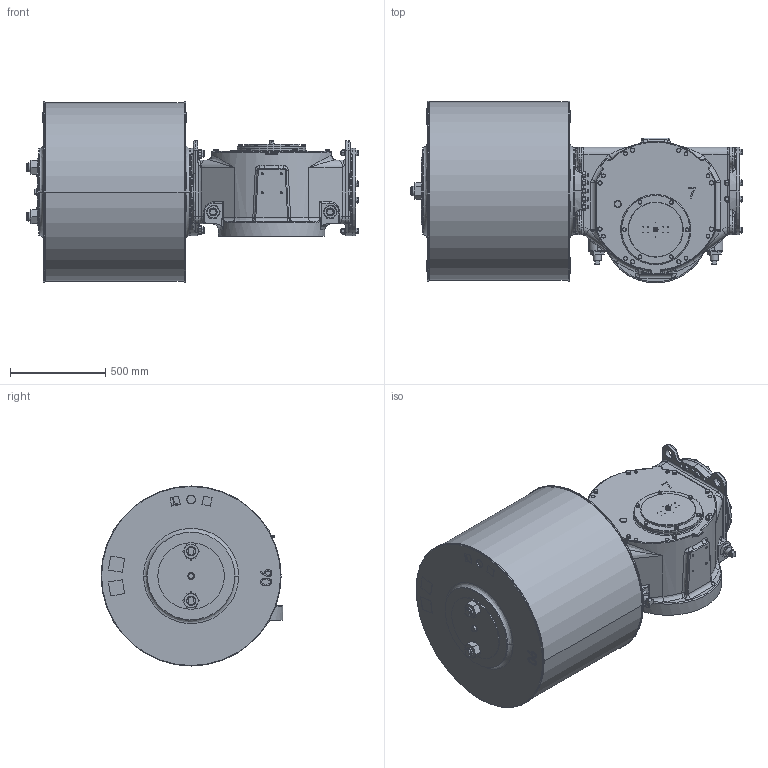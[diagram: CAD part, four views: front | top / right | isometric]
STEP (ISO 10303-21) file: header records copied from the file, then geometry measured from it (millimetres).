
FILE_DESCRIPTION (( 'STEP AP203' ), '1' );
FILE_NAME ('VTS7-900.STEP', '2023-01-01T10:17:02', ( '' ), ( '' ), 'SwSTEP 2.0', 'SolidWorks 2020', '' );
FILE_SCHEMA (( 'CONFIG_CONTROL_DESIGN' ));
Length unit declared in the file: millimetre
Products named in the file (1): VTS7-900
Bounding box: 1745.71 x 956.5 x 947 mm (x, y, z)
Volume: 717527080.7 mm3; surface area: 7256493.2 mm2
Topology: 27 solids, 28 shells, 2868 faces, 7202 edges, 4415 vertices
Faces by surface type: plane 958, cylinder 926, cone 618, bspline 366
Entity records: 113328 total; most frequent: CARTESIAN_POINT 47236, ORIENTED_EDGE 14120, DIRECTION 13615, EDGE_CURVE 7060, AXIS2_PLACEMENT_3D 5450, VERTEX_POINT 4415, EDGE_LOOP 3149, CIRCLE 2947
